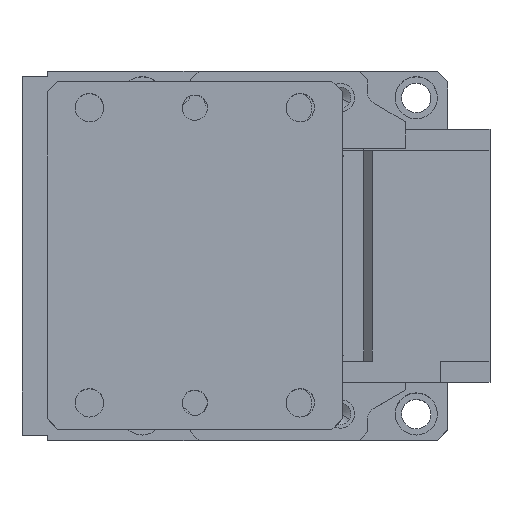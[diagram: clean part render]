
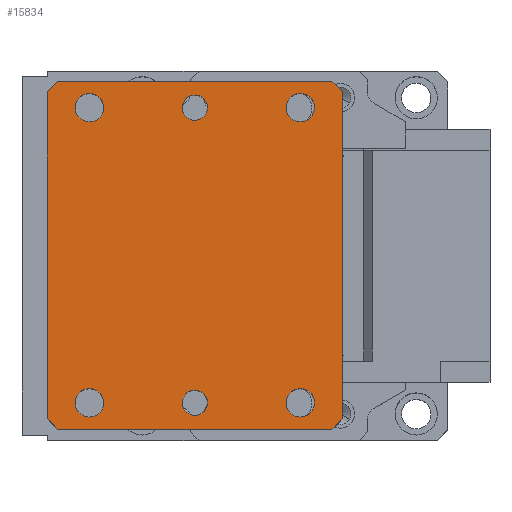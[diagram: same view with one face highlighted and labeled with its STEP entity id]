
A CAD part, top view. The second image highlights one B-rep face of the part: STEP entity #15834.
In plain terms, the highlighted planar face has unit normal (0, 0, 1).
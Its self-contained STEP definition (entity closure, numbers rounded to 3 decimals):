
#15241=CARTESIAN_POINT('Vertex',(5.,82.5,260.)) ;
#15244=CARTESIAN_POINT('Line Origine',(70.,82.5,260.)) ;
#15248=CARTESIAN_POINT('Vertex',(135.,82.5,260.)) ;
#15364=CARTESIAN_POINT('Vertex',(0.,77.5,260.)) ;
#15367=CARTESIAN_POINT('Line Origine',(0.,77.5,260.)) ;
#15507=CARTESIAN_POINT('Vertex',(135.,-82.5,260.)) ;
#15512=CARTESIAN_POINT('Line Origine',(70.,-82.5,260.)) ;
#15516=CARTESIAN_POINT('Vertex',(5.,-82.5,260.)) ;
#15630=CARTESIAN_POINT('Line Origine',(0.,-77.5,260.)) ;
#15634=CARTESIAN_POINT('Vertex',(0.,-77.5,260.)) ;
#15687=CARTESIAN_POINT('Axis2P3D Location',(187.171,0.,260.)) ;
#15692=CARTESIAN_POINT('Line Origine',(137.5,-80.,260.)) ;
#15696=CARTESIAN_POINT('Vertex',(140.,-77.5,260.)) ;
#15699=CARTESIAN_POINT('Line Origine',(140.,0.,260.)) ;
#15703=CARTESIAN_POINT('Vertex',(140.,77.5,260.)) ;
#15706=CARTESIAN_POINT('Line Origine',(137.5,80.,260.)) ;
#15711=CARTESIAN_POINT('Line Origine',(0.,0.,260.)) ;
#15726=CARTESIAN_POINT('Axis2P3D Location',(20.,-70.,260.)) ;
#15730=CARTESIAN_POINT('Vertex',(16.764,-64.076,260.)) ;
#15732=CARTESIAN_POINT('Vertex',(23.236,-75.924,260.)) ;
#15735=CARTESIAN_POINT('Axis2P3D Location',(20.,-70.,260.)) ;
#15744=CARTESIAN_POINT('Axis2P3D Location',(120.,-70.,260.)) ;
#15748=CARTESIAN_POINT('Vertex',(116.764,-64.076,260.)) ;
#15750=CARTESIAN_POINT('Vertex',(123.236,-75.924,260.)) ;
#15753=CARTESIAN_POINT('Axis2P3D Location',(120.,-70.,260.)) ;
#15762=CARTESIAN_POINT('Axis2P3D Location',(120.,70.,260.)) ;
#15766=CARTESIAN_POINT('Vertex',(116.764,75.924,260.)) ;
#15768=CARTESIAN_POINT('Vertex',(123.236,64.076,260.)) ;
#15771=CARTESIAN_POINT('Axis2P3D Location',(120.,70.,260.)) ;
#15780=CARTESIAN_POINT('Axis2P3D Location',(20.,70.,260.)) ;
#15784=CARTESIAN_POINT('Vertex',(16.764,75.924,260.)) ;
#15786=CARTESIAN_POINT('Vertex',(23.236,64.076,260.)) ;
#15789=CARTESIAN_POINT('Axis2P3D Location',(20.,70.,260.)) ;
#15798=CARTESIAN_POINT('Axis2P3D Location',(70.,-70.,260.)) ;
#15802=CARTESIAN_POINT('Vertex',(67.123,-64.735,260.)) ;
#15804=CARTESIAN_POINT('Vertex',(72.877,-75.265,260.)) ;
#15807=CARTESIAN_POINT('Axis2P3D Location',(70.,-70.,260.)) ;
#15816=CARTESIAN_POINT('Axis2P3D Location',(70.,70.,260.)) ;
#15820=CARTESIAN_POINT('Vertex',(67.123,75.265,260.)) ;
#15822=CARTESIAN_POINT('Vertex',(72.877,64.735,260.)) ;
#15825=CARTESIAN_POINT('Axis2P3D Location',(70.,70.,260.)) ;
#15246=VECTOR('Line Direction',#15245,1.) ;
#15369=VECTOR('Line Direction',#15368,1.) ;
#15514=VECTOR('Line Direction',#15513,1.) ;
#15632=VECTOR('Line Direction',#15631,1.) ;
#15694=VECTOR('Line Direction',#15693,1.) ;
#15701=VECTOR('Line Direction',#15700,1.) ;
#15708=VECTOR('Line Direction',#15707,1.) ;
#15713=VECTOR('Line Direction',#15712,1.) ;
#15245=DIRECTION('Vector Direction',(-1.,0.,0.)) ;
#15368=DIRECTION('Vector Direction',(0.707,0.707,0.)) ;
#15513=DIRECTION('Vector Direction',(-1.,0.,0.)) ;
#15631=DIRECTION('Vector Direction',(0.707,-0.707,0.)) ;
#15688=DIRECTION('Axis2P3D Direction',(0.,0.,1.)) ;
#15689=DIRECTION('Axis2P3D XDirection',(-1.,0.,0.)) ;
#15693=DIRECTION('Vector Direction',(-0.707,-0.707,0.)) ;
#15700=DIRECTION('Vector Direction',(0.,1.,0.)) ;
#15707=DIRECTION('Vector Direction',(-0.707,0.707,0.)) ;
#15712=DIRECTION('Vector Direction',(0.,-1.,0.)) ;
#15727=DIRECTION('Axis2P3D Direction',(0.,0.,1.)) ;
#15736=DIRECTION('Axis2P3D Direction',(0.,0.,1.)) ;
#15745=DIRECTION('Axis2P3D Direction',(0.,0.,1.)) ;
#15754=DIRECTION('Axis2P3D Direction',(0.,0.,1.)) ;
#15763=DIRECTION('Axis2P3D Direction',(0.,0.,1.)) ;
#15772=DIRECTION('Axis2P3D Direction',(0.,0.,1.)) ;
#15781=DIRECTION('Axis2P3D Direction',(0.,0.,1.)) ;
#15790=DIRECTION('Axis2P3D Direction',(0.,0.,1.)) ;
#15799=DIRECTION('Axis2P3D Direction',(0.,0.,1.)) ;
#15808=DIRECTION('Axis2P3D Direction',(0.,0.,1.)) ;
#15817=DIRECTION('Axis2P3D Direction',(0.,0.,1.)) ;
#15826=DIRECTION('Axis2P3D Direction',(0.,0.,1.)) ;
#15690=AXIS2_PLACEMENT_3D('Plane Axis2P3D',#15687,#15688,#15689) ;
#15728=AXIS2_PLACEMENT_3D('Circle Axis2P3D',#15726,#15727,$) ;
#15737=AXIS2_PLACEMENT_3D('Circle Axis2P3D',#15735,#15736,$) ;
#15746=AXIS2_PLACEMENT_3D('Circle Axis2P3D',#15744,#15745,$) ;
#15755=AXIS2_PLACEMENT_3D('Circle Axis2P3D',#15753,#15754,$) ;
#15764=AXIS2_PLACEMENT_3D('Circle Axis2P3D',#15762,#15763,$) ;
#15773=AXIS2_PLACEMENT_3D('Circle Axis2P3D',#15771,#15772,$) ;
#15782=AXIS2_PLACEMENT_3D('Circle Axis2P3D',#15780,#15781,$) ;
#15791=AXIS2_PLACEMENT_3D('Circle Axis2P3D',#15789,#15790,$) ;
#15800=AXIS2_PLACEMENT_3D('Circle Axis2P3D',#15798,#15799,$) ;
#15809=AXIS2_PLACEMENT_3D('Circle Axis2P3D',#15807,#15808,$) ;
#15818=AXIS2_PLACEMENT_3D('Circle Axis2P3D',#15816,#15817,$) ;
#15827=AXIS2_PLACEMENT_3D('Circle Axis2P3D',#15825,#15826,$) ;
#15247=LINE('Line',#15244,#15246) ;
#15370=LINE('Line',#15367,#15369) ;
#15515=LINE('Line',#15512,#15514) ;
#15633=LINE('Line',#15630,#15632) ;
#15695=LINE('Line',#15692,#15694) ;
#15702=LINE('Line',#15699,#15701) ;
#15709=LINE('Line',#15706,#15708) ;
#15714=LINE('Line',#15711,#15713) ;
#15729=CIRCLE('generated circle',#15728,6.75) ;
#15738=CIRCLE('generated circle',#15737,6.75) ;
#15747=CIRCLE('generated circle',#15746,6.75) ;
#15756=CIRCLE('generated circle',#15755,6.75) ;
#15765=CIRCLE('generated circle',#15764,6.75) ;
#15774=CIRCLE('generated circle',#15773,6.75) ;
#15783=CIRCLE('generated circle',#15782,6.75) ;
#15792=CIRCLE('generated circle',#15791,6.75) ;
#15801=CIRCLE('generated circle',#15800,6.) ;
#15810=CIRCLE('generated circle',#15809,6.) ;
#15819=CIRCLE('generated circle',#15818,6.) ;
#15828=CIRCLE('generated circle',#15827,6.) ;
#15691=PLANE('',#15690) ;
#15743=FACE_BOUND('',#15740,.T.) ;
#15761=FACE_BOUND('',#15758,.T.) ;
#15779=FACE_BOUND('',#15776,.T.) ;
#15797=FACE_BOUND('',#15794,.T.) ;
#15815=FACE_BOUND('',#15812,.T.) ;
#15833=FACE_BOUND('',#15830,.T.) ;
#15250=EDGE_CURVE('',#15249,#15242,#15247,.T.) ;
#15371=EDGE_CURVE('',#15365,#15242,#15370,.T.) ;
#15518=EDGE_CURVE('',#15508,#15517,#15515,.T.) ;
#15636=EDGE_CURVE('',#15635,#15517,#15633,.T.) ;
#15698=EDGE_CURVE('',#15697,#15508,#15695,.T.) ;
#15705=EDGE_CURVE('',#15704,#15697,#15702,.F.) ;
#15710=EDGE_CURVE('',#15704,#15249,#15709,.T.) ;
#15715=EDGE_CURVE('',#15635,#15365,#15714,.F.) ;
#15734=EDGE_CURVE('',#15731,#15733,#15729,.T.) ;
#15739=EDGE_CURVE('',#15733,#15731,#15738,.T.) ;
#15752=EDGE_CURVE('',#15749,#15751,#15747,.T.) ;
#15757=EDGE_CURVE('',#15751,#15749,#15756,.T.) ;
#15770=EDGE_CURVE('',#15767,#15769,#15765,.T.) ;
#15775=EDGE_CURVE('',#15769,#15767,#15774,.T.) ;
#15788=EDGE_CURVE('',#15785,#15787,#15783,.T.) ;
#15793=EDGE_CURVE('',#15787,#15785,#15792,.T.) ;
#15806=EDGE_CURVE('',#15803,#15805,#15801,.T.) ;
#15811=EDGE_CURVE('',#15805,#15803,#15810,.T.) ;
#15824=EDGE_CURVE('',#15821,#15823,#15819,.T.) ;
#15829=EDGE_CURVE('',#15823,#15821,#15828,.T.) ;
#15716=EDGE_LOOP('',(#15717,#15718,#15719,#15720,#15721,#15722,#15723,#15724)) ;
#15740=EDGE_LOOP('',(#15741,#15742)) ;
#15758=EDGE_LOOP('',(#15759,#15760)) ;
#15776=EDGE_LOOP('',(#15777,#15778)) ;
#15794=EDGE_LOOP('',(#15795,#15796)) ;
#15812=EDGE_LOOP('',(#15813,#15814)) ;
#15830=EDGE_LOOP('',(#15831,#15832)) ;
#15717=ORIENTED_EDGE('',*,*,#15636,.T.) ;
#15718=ORIENTED_EDGE('',*,*,#15518,.F.) ;
#15719=ORIENTED_EDGE('',*,*,#15698,.F.) ;
#15720=ORIENTED_EDGE('',*,*,#15705,.F.) ;
#15721=ORIENTED_EDGE('',*,*,#15710,.T.) ;
#15722=ORIENTED_EDGE('',*,*,#15250,.T.) ;
#15723=ORIENTED_EDGE('',*,*,#15371,.F.) ;
#15724=ORIENTED_EDGE('',*,*,#15715,.F.) ;
#15741=ORIENTED_EDGE('',*,*,#15734,.F.) ;
#15742=ORIENTED_EDGE('',*,*,#15739,.F.) ;
#15759=ORIENTED_EDGE('',*,*,#15752,.F.) ;
#15760=ORIENTED_EDGE('',*,*,#15757,.F.) ;
#15777=ORIENTED_EDGE('',*,*,#15770,.F.) ;
#15778=ORIENTED_EDGE('',*,*,#15775,.F.) ;
#15795=ORIENTED_EDGE('',*,*,#15788,.F.) ;
#15796=ORIENTED_EDGE('',*,*,#15793,.F.) ;
#15813=ORIENTED_EDGE('',*,*,#15806,.F.) ;
#15814=ORIENTED_EDGE('',*,*,#15811,.F.) ;
#15831=ORIENTED_EDGE('',*,*,#15824,.F.) ;
#15832=ORIENTED_EDGE('',*,*,#15829,.F.) ;
#15242=VERTEX_POINT('',#15241) ;
#15249=VERTEX_POINT('',#15248) ;
#15365=VERTEX_POINT('',#15364) ;
#15508=VERTEX_POINT('',#15507) ;
#15517=VERTEX_POINT('',#15516) ;
#15635=VERTEX_POINT('',#15634) ;
#15697=VERTEX_POINT('',#15696) ;
#15704=VERTEX_POINT('',#15703) ;
#15731=VERTEX_POINT('',#15730) ;
#15733=VERTEX_POINT('',#15732) ;
#15749=VERTEX_POINT('',#15748) ;
#15751=VERTEX_POINT('',#15750) ;
#15767=VERTEX_POINT('',#15766) ;
#15769=VERTEX_POINT('',#15768) ;
#15785=VERTEX_POINT('',#15784) ;
#15787=VERTEX_POINT('',#15786) ;
#15803=VERTEX_POINT('',#15802) ;
#15805=VERTEX_POINT('',#15804) ;
#15821=VERTEX_POINT('',#15820) ;
#15823=VERTEX_POINT('',#15822) ;
#15834=ADVANCED_FACE('opened position',(#15725,#15743,#15761,#15779,#15797,#15815,#15833),#15691,.T.) ;
#15725=FACE_OUTER_BOUND('',#15716,.T.) ;
